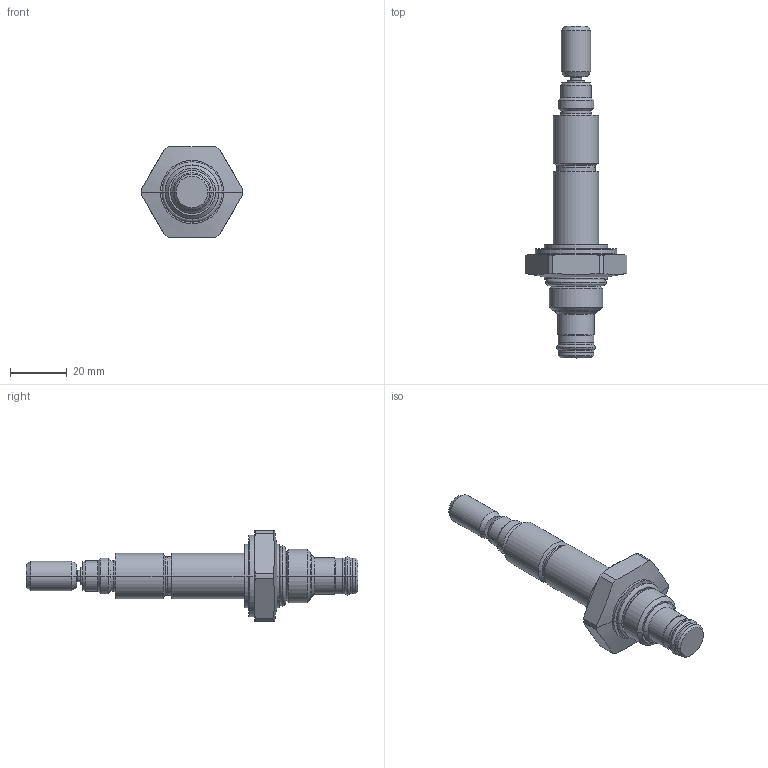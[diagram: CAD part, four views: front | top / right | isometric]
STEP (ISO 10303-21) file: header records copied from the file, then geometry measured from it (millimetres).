
FILE_DESCRIPTION((''),'2;1');
FILE_NAME('PRT0002','2009-03-04T',('jcs'),(''),'PRO/ENGINEER BY PARAMETRIC TECHNOLOGY CORPORATION, 2008010','PRO/ENGINEER BY PARAMETRIC TECHNOLOGY CORPORATION, 2008010','');
FILE_SCHEMA(('CONFIG_CONTROL_DESIGN'));
Length unit declared in the file: inch
Products named in the file (1): PRT0002
Bounding box: 35.69 x 116.54 x 31.75 mm (x, y, z)
Volume: 25408.4 mm3; surface area: 8629 mm2
Topology: 3 solids, 3 shells, 167 faces, 350 edges, 200 vertices
Faces by surface type: cylinder 58, cone 52, plane 23, torus 18, revolution 16
Entity records: 4856 total; most frequent: CARTESIAN_POINT 1173, DIRECTION 834, ORIENTED_EDGE 700, AXIS2_PLACEMENT_3D 351, EDGE_CURVE 350, VERTEX_POINT 200, CIRCLE 200, EDGE_LOOP 182
